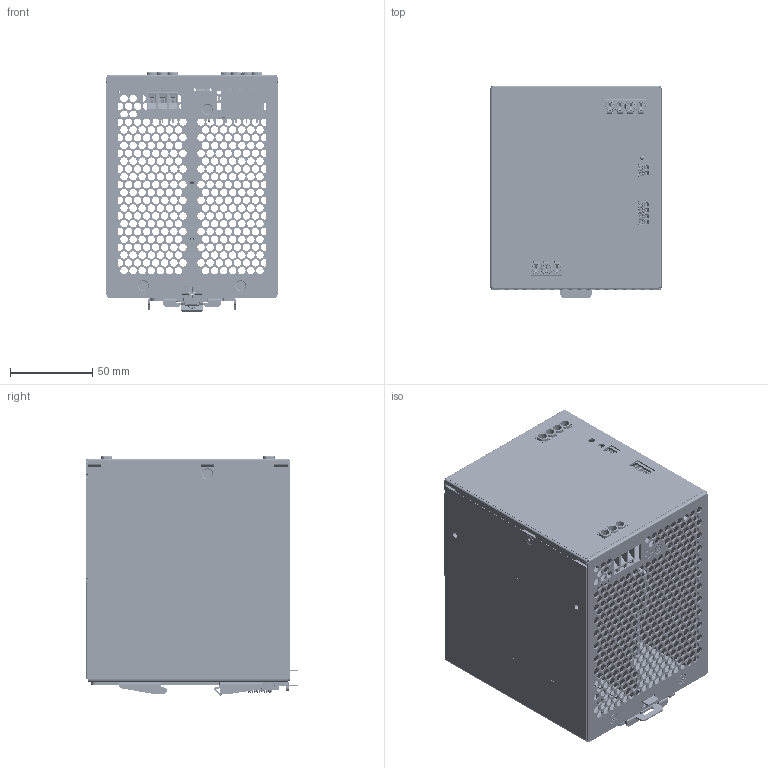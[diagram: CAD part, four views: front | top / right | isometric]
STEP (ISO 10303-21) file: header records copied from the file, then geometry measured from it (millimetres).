
FILE_DESCRIPTION((''),'2;1');
FILE_NAME('DIN-PRO_DRF-XXV960W1P_SW0001','2026-04-29T17:35:47',('JOSH.LEE'),(''),'CREO PARAMETRIC BY PTC INC, 2024014','CREO PARAMETRIC BY PTC INC, 2024014','');
FILE_SCHEMA(('CONFIG_CONTROL_DESIGN','GEOMETRIC_VALIDATION_PROPERTIES_MIM'));
Products named in the file (1): DIN-PRO_DRF-XXV960W1P_SW0001
Bounding box: 103.8 x 128.8 x 145.34 mm (x, y, z)
Volume: 229103.3 mm3; surface area: 291859.7 mm2
Topology: 9 solids, 10 shells, 8163 faces, 22980 edges, 14693 vertices
Faces by surface type: plane 4321, cylinder 3155, cone 208, bspline 199, torus 117, sphere 112, extrusion 51
Entity records: 289873 total; most frequent: CARTESIAN_POINT 74419, ORIENTED_EDGE 45678, DIRECTION 43778, EDGE_CURVE 22839, VERTEX_POINT 14677, VECTOR 14626, AXIS2_PLACEMENT_3D 14576, LINE 14575
